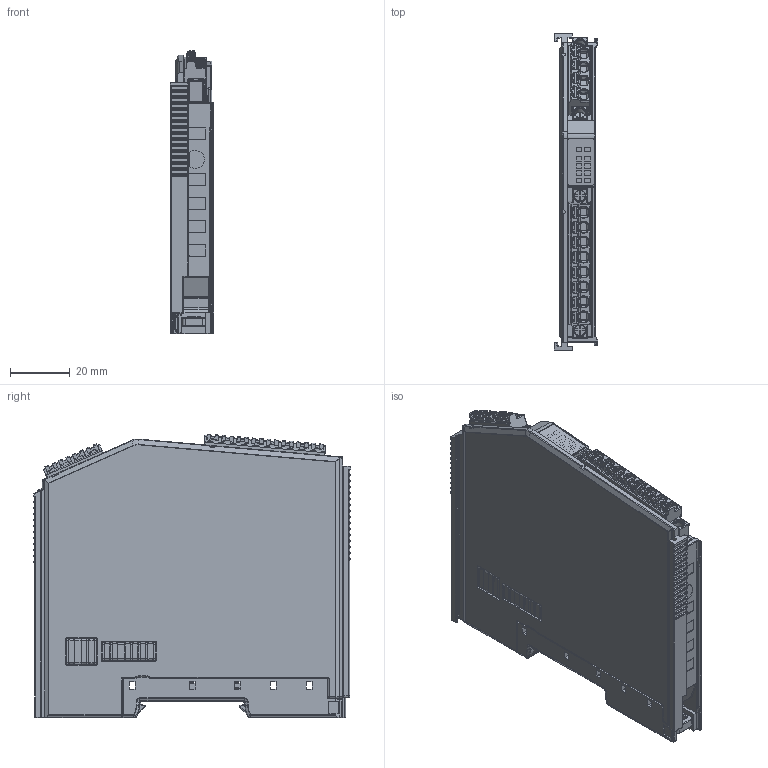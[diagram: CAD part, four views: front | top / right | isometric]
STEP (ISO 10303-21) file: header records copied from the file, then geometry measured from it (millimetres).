
FILE_DESCRIPTION (( 'STEP AP203' ), '1' );
FILE_NAME ('assy_WISE-50XX_4P-8P.STEP', '2020-03-23T03:43:24', ( '' ), ( '' ), 'SwSTEP 2.0', 'SolidWorks 2018', '' );
FILE_SCHEMA (( 'CONFIG_CONTROL_DESIGN' ));
Length unit declared in the file: millimetre
Products named in the file (1): assy_WISE-50XX_4P-8P
Bounding box: 14.55 x 105.9 x 94.7 mm (x, y, z)
Volume: 92365.5 mm3; surface area: 45676.8 mm2
Topology: 1 solids, 44 shells, 5472 faces, 14421 edges, 8796 vertices
Faces by surface type: plane 3029, cylinder 1498, bspline 541, torus 188, sphere 164, cone 52
Entity records: 181340 total; most frequent: CARTESIAN_POINT 52364, ORIENTED_EDGE 28244, DIRECTION 24989, EDGE_CURVE 14122, VECTOR 9573, LINE 9573, VERTEX_POINT 8794, AXIS2_PLACEMENT_3D 7708
